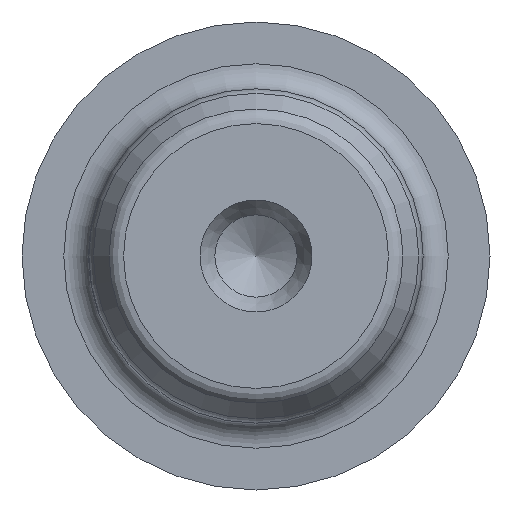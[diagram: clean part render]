
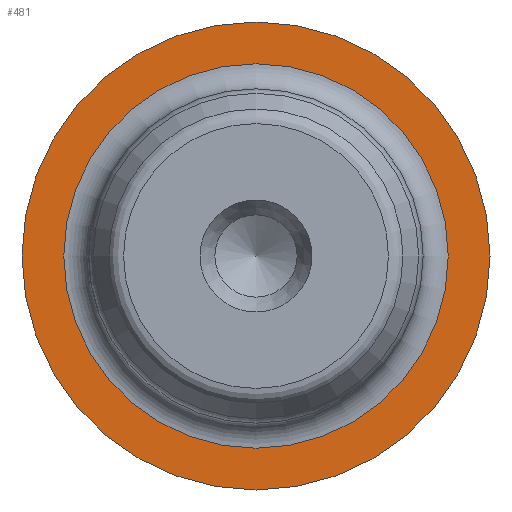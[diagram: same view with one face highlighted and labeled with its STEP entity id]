
A CAD part, left-side view. The second image highlights one B-rep face of the part: STEP entity #481.
In plain terms, the highlighted planar face has unit normal (-1, 0, 0).
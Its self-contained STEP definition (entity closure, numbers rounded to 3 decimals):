
#23=FACE_BOUND('',#107,.T.);
#35=PLANE('',#554);
#74=FACE_OUTER_BOUND('',#106,.T.);
#106=EDGE_LOOP('',(#415));
#107=EDGE_LOOP('',(#416));
#192=CIRCLE('',#553,11.5);
#193=CIRCLE('',#555,14.);
#241=VERTEX_POINT('',#914);
#242=VERTEX_POINT('',#918);
#303=EDGE_CURVE('',#241,#241,#192,.T.);
#304=EDGE_CURVE('',#242,#242,#193,.T.);
#415=ORIENTED_EDGE('',*,*,#304,.F.);
#416=ORIENTED_EDGE('',*,*,#303,.T.);
#481=ADVANCED_FACE('',(#74,#23),#35,.T.);
#553=AXIS2_PLACEMENT_3D('',#916,#675,#676);
#554=AXIS2_PLACEMENT_3D('',#917,#677,#678);
#555=AXIS2_PLACEMENT_3D('',#919,#679,#680);
#675=DIRECTION('center_axis',(1.,0.,0.));
#676=DIRECTION('ref_axis',(0.,0.,-1.));
#677=DIRECTION('center_axis',(-1.,0.,0.));
#678=DIRECTION('ref_axis',(0.,0.,1.));
#679=DIRECTION('center_axis',(1.,0.,0.));
#680=DIRECTION('ref_axis',(0.,0.,-1.));
#914=CARTESIAN_POINT('',(89.,0.,11.5));
#916=CARTESIAN_POINT('Origin',(89.,0.,0.));
#917=CARTESIAN_POINT('Origin',(89.,14.,0.));
#918=CARTESIAN_POINT('',(89.,-14.,0.));
#919=CARTESIAN_POINT('Origin',(89.,0.,0.));
